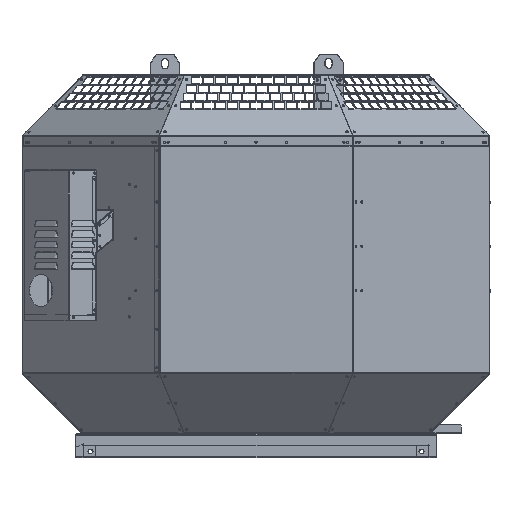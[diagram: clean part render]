
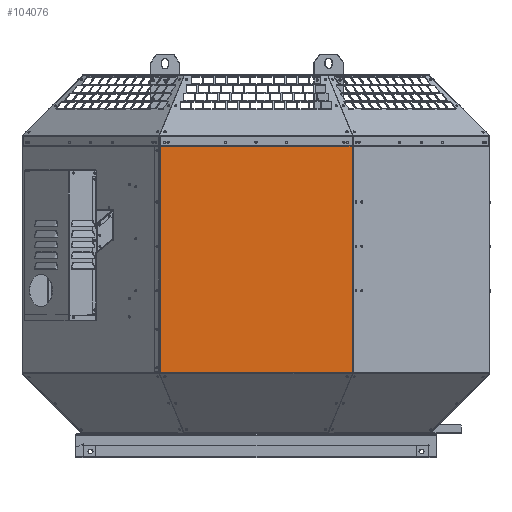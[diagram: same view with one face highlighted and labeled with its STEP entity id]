
A CAD part, top view. The second image highlights one B-rep face of the part: STEP entity #104076.
In plain terms, the highlighted planar face has unit normal (0, 0, 1).
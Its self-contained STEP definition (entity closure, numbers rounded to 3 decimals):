
#373 = EDGE_CURVE ( 'NONE', #96186, #12716, #82714, .T. ) ;
#748 = DIRECTION ( 'NONE',  ( 0., 0., 1. ) ) ;
#847 = EDGE_CURVE ( 'NONE', #91742, #12716, #116250, .T. ) ;
#1176 = CARTESIAN_POINT ( 'NONE',  ( 186.396, 137.814, 451. ) ) ;
#1332 = ORIENTED_EDGE ( 'NONE', *, *, #82675, .F. ) ;
#1336 = CARTESIAN_POINT ( 'NONE',  ( 185.035, 573.321, 451. ) ) ;
#1696 = ORIENTED_EDGE ( 'NONE', *, *, #2386, .F. ) ;
#1909 = DIRECTION ( 'NONE',  ( -1., 0., 0. ) ) ;
#2055 = EDGE_CURVE ( 'NONE', #71016, #96186, #110265, .T. ) ;
#2386 = EDGE_CURVE ( 'NONE', #34974, #107615, #89560, .T. ) ;
#2562 = CARTESIAN_POINT ( 'NONE',  ( -183.971, 573.321, 451. ) ) ;
#2575 = ORIENTED_EDGE ( 'NONE', *, *, #4136, .F. ) ;
#4136 = EDGE_CURVE ( 'NONE', #50989, #91742, #37757, .T. ) ;
#5475 = LINE ( 'NONE', #2562, #55084 ) ;
#10697 = CARTESIAN_POINT ( 'NONE',  ( 186.396, 573.321, 451. ) ) ;
#12716 = VERTEX_POINT ( 'NONE', #1336 ) ;
#13813 = CARTESIAN_POINT ( 'NONE',  ( -183.971, 138.814, 451. ) ) ;
#15011 = LINE ( 'NONE', #22644, #61611 ) ;
#17173 = VECTOR ( 'NONE', #89036, 1000. ) ;
#18109 = LINE ( 'NONE', #72669, #64689 ) ;
#19247 = LINE ( 'NONE', #1176, #115593 ) ;
#19915 = VECTOR ( 'NONE', #115137, 1000. ) ;
#22644 = CARTESIAN_POINT ( 'NONE',  ( 185.485, 594.314, 451. ) ) ;
#31090 = DIRECTION ( 'NONE',  ( 1., 0., 0. ) ) ;
#31960 = DIRECTION ( 'NONE',  ( 0., -1., 0. ) ) ;
#32596 = CARTESIAN_POINT ( 'NONE',  ( 185.035, 594.314, 451. ) ) ;
#34974 = VERTEX_POINT ( 'NONE', #81724 ) ;
#37757 = LINE ( 'NONE', #98320, #90217 ) ;
#38716 = DIRECTION ( 'NONE',  ( -1., 0., 0. ) ) ;
#44246 = CARTESIAN_POINT ( 'NONE',  ( -183.896, 138.814, 451. ) ) ;
#46546 = ORIENTED_EDGE ( 'NONE', *, *, #847, .F. ) ;
#48894 = CARTESIAN_POINT ( 'NONE',  ( 185.035, 573.314, 451. ) ) ;
#49066 = DIRECTION ( 'NONE',  ( 0., -1., 0. ) ) ;
#49310 = ORIENTED_EDGE ( 'NONE', *, *, #2055, .T. ) ;
#50989 = VERTEX_POINT ( 'NONE', #66790 ) ;
#55084 = VECTOR ( 'NONE', #49066, 1000. ) ;
#58071 = CARTESIAN_POINT ( 'NONE',  ( 188.035, 573.314, 451. ) ) ;
#61611 = VECTOR ( 'NONE', #31960, 1000. ) ;
#62907 = VERTEX_POINT ( 'NONE', #13813 ) ;
#64689 = VECTOR ( 'NONE', #82042, 1000. ) ;
#65846 = DIRECTION ( 'NONE',  ( 1., 0., 0. ) ) ;
#66790 = CARTESIAN_POINT ( 'NONE',  ( -183.971, 573.321, 451. ) ) ;
#67267 = DIRECTION ( 'NONE',  ( 0.573, 0.819, 0. ) ) ;
#67428 = ORIENTED_EDGE ( 'NONE', *, *, #114535, .T. ) ;
#71016 = VERTEX_POINT ( 'NONE', #107074 ) ;
#72005 = EDGE_CURVE ( 'NONE', #107615, #62907, #18109, .T. ) ;
#72669 = CARTESIAN_POINT ( 'NONE',  ( -186.396, 138.814, 451. ) ) ;
#73350 = ORIENTED_EDGE ( 'NONE', *, *, #72005, .F. ) ;
#73559 = CARTESIAN_POINT ( 'NONE',  ( 185.485, 137.814, 451. ) ) ;
#74679 = VERTEX_POINT ( 'NONE', #73559 ) ;
#80194 = FACE_OUTER_BOUND ( 'NONE', #94342, .T. ) ;
#81724 = CARTESIAN_POINT ( 'NONE',  ( -184.596, 137.814, 451. ) ) ;
#81811 = EDGE_CURVE ( 'NONE', #71016, #74679, #15011, .T. ) ;
#82042 = DIRECTION ( 'NONE',  ( -1., 0., 0. ) ) ;
#82675 = EDGE_CURVE ( 'NONE', #74679, #34974, #19247, .T. ) ;
#82714 = LINE ( 'NONE', #32596, #17173 ) ;
#84225 = CARTESIAN_POINT ( 'NONE',  ( 186.396, 594.314, 451. ) ) ;
#85357 = VECTOR ( 'NONE', #1909, 1000. ) ;
#89036 = DIRECTION ( 'NONE',  ( 0., 1., 0. ) ) ;
#89560 = LINE ( 'NONE', #44246, #114519 ) ;
#90217 = VECTOR ( 'NONE', #31090, 1000. ) ;
#91742 = VERTEX_POINT ( 'NONE', #104223 ) ;
#93657 = PLANE ( 'NONE',  #113677 ) ;
#94342 = EDGE_LOOP ( 'NONE', ( #2575, #67428, #73350, #1696, #1332, #95164, #49310, #108467, #46546 ) ) ;
#94502 = CARTESIAN_POINT ( 'NONE',  ( -183.896, 138.814, 451. ) ) ;
#95164 = ORIENTED_EDGE ( 'NONE', *, *, #81811, .F. ) ;
#96186 = VERTEX_POINT ( 'NONE', #48894 ) ;
#98320 = CARTESIAN_POINT ( 'NONE',  ( 186.396, 573.321, 451. ) ) ;
#104076 = ADVANCED_FACE ( 'NONE', ( #80194 ), #93657, .T. ) ;
#104223 = CARTESIAN_POINT ( 'NONE',  ( -183.896, 573.321, 451. ) ) ;
#107074 = CARTESIAN_POINT ( 'NONE',  ( 185.485, 573.314, 451. ) ) ;
#107615 = VERTEX_POINT ( 'NONE', #94502 ) ;
#108467 = ORIENTED_EDGE ( 'NONE', *, *, #373, .T. ) ;
#110265 = LINE ( 'NONE', #58071, #85357 ) ;
#113677 = AXIS2_PLACEMENT_3D ( 'NONE', #84225, #748, #65846 ) ;
#114519 = VECTOR ( 'NONE', #67267, 1000. ) ;
#114535 = EDGE_CURVE ( 'NONE', #50989, #62907, #5475, .T. ) ;
#115137 = DIRECTION ( 'NONE',  ( 1., 0., 0. ) ) ;
#115593 = VECTOR ( 'NONE', #38716, 1000. ) ;
#116250 = LINE ( 'NONE', #10697, #19915 ) ;
